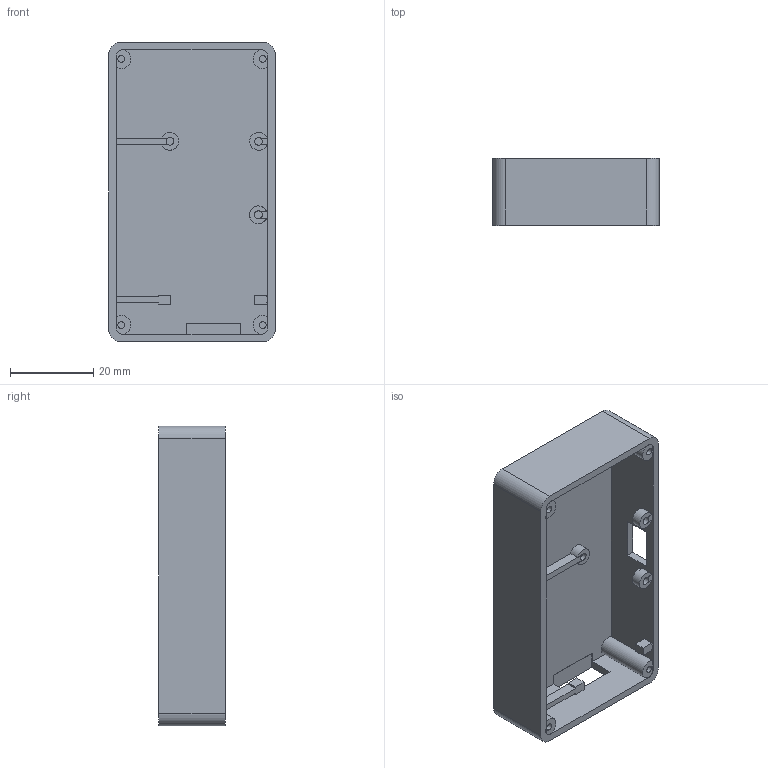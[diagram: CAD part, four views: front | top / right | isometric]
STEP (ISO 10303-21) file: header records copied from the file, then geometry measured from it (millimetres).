
FILE_DESCRIPTION(('Open CASCADE Model'),'2;1');
FILE_NAME('Open CASCADE Shape Model','2026-10-19T09:32:29',('Author'),( 'Open CASCADE'),'Open CASCADE STEP processor 7.9','Open CASCADE 7.9' ,'Unknown');
FILE_SCHEMA(('AUTOMOTIVE_DESIGN { 1 0 10303 214 1 1 1 1 }'));
Length unit declared in the file: millimetre
Products named in the file (1): Open CASCADE STEP translator 7.9 2
Bounding box: 40 x 16.1 x 72 mm (x, y, z)
Volume: 11187.7 mm3; surface area: 13116.5 mm2
Topology: 1 solids, 1 shells, 170 faces, 474 edges, 316 vertices
Faces by surface type: plane 117, cylinder 36, extrusion 17
Full cylindrical faces by diameter (mm): 1.64 x8, 1.88 x3, 4.24 x3, 16.3 x1, 16.9 x1
Entity records: 12112 total; most frequent: CARTESIAN_POINT 3251, DIRECTION 1426, ORIENTED_EDGE 948, PCURVE 948, DEFINITIONAL_REPRESENTATION 948, VECTOR 860, LINE 843, EDGE_CURVE 474
